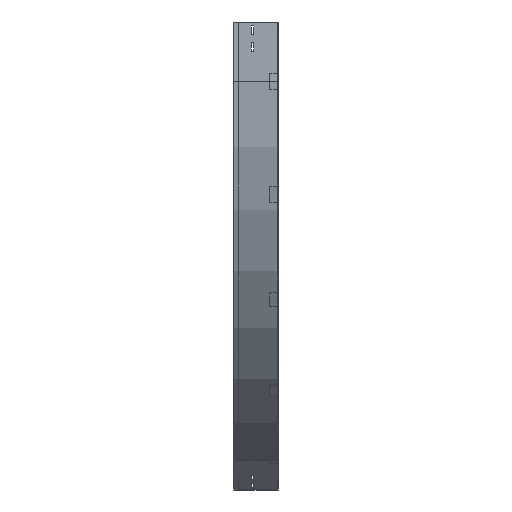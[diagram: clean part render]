
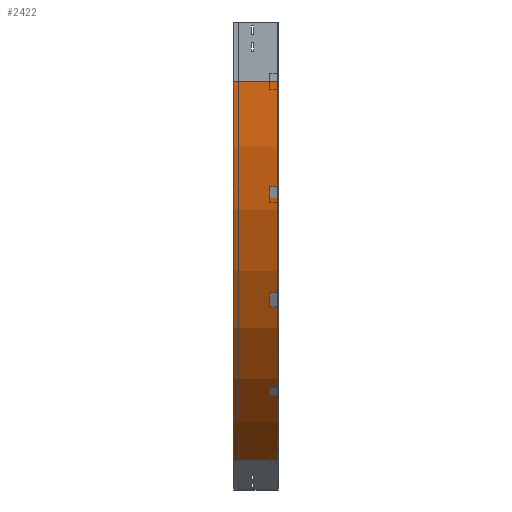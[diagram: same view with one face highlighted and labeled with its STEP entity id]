
A CAD part, left-side view. The second image highlights one B-rep face of the part: STEP entity #2422.
In plain terms, the highlighted cylindrical face has radius 1100 mm (diameter 2200 mm), a partial arc.
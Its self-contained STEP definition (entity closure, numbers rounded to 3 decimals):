
#41 = FACE_OUTER_BOUND ( 'NONE', #724, .T. ) ;
#107 = EDGE_CURVE ( 'NONE', #617, #1916, #3446, .T. ) ;
#617 = VERTEX_POINT ( 'NONE', #2658 ) ;
#662 = LINE ( 'NONE', #2708, #2881 ) ;
#724 = EDGE_LOOP ( 'NONE', ( #3082, #1937, #2550, #2233 ) ) ;
#752 = EDGE_CURVE ( 'NONE', #1916, #2128, #662, .T. ) ;
#831 = DIRECTION ( 'NONE',  ( 0., -1., 0. ) ) ;
#874 = CARTESIAN_POINT ( 'NONE',  ( 1100., 0., -150. ) ) ;
#1181 = AXIS2_PLACEMENT_3D ( 'NONE', #1541, #2205, #3415 ) ;
#1182 = DIRECTION ( 'NONE',  ( -1., 0., 0. ) ) ;
#1541 = CARTESIAN_POINT ( 'NONE',  ( 1100., 112.5, -150. ) ) ;
#1888 = LINE ( 'NONE', #3389, #2068 ) ;
#1916 = VERTEX_POINT ( 'NONE', #3169 ) ;
#1937 = ORIENTED_EDGE ( 'NONE', *, *, #2909, .F. ) ;
#1995 = CYLINDRICAL_SURFACE ( 'NONE', #2119, 1100. ) ;
#2068 = VECTOR ( 'NONE', #2139, 1000. ) ;
#2119 = AXIS2_PLACEMENT_3D ( 'NONE', #3499, #831, #2988 ) ;
#2128 = VERTEX_POINT ( 'NONE', #2947 ) ;
#2139 = DIRECTION ( 'NONE',  ( 0., -1., 0. ) ) ;
#2205 = DIRECTION ( 'NONE',  ( 0., -1., 0. ) ) ;
#2233 = ORIENTED_EDGE ( 'NONE', *, *, #752, .T. ) ;
#2392 = DIRECTION ( 'NONE',  ( 0., -1., 0. ) ) ;
#2394 = DIRECTION ( 'NONE',  ( 0., -1., 0. ) ) ;
#2422 = ADVANCED_FACE ( 'NONE', ( #41 ), #1995, .T. ) ;
#2550 = ORIENTED_EDGE ( 'NONE', *, *, #107, .T. ) ;
#2658 = CARTESIAN_POINT ( 'NONE',  ( 0., 112.5, -150. ) ) ;
#2708 = CARTESIAN_POINT ( 'NONE',  ( 550., 0., -1102.628 ) ) ;
#2750 = CARTESIAN_POINT ( 'NONE',  ( 0., 0., -150. ) ) ;
#2830 = CIRCLE ( 'NONE', #3639, 1100. ) ;
#2881 = VECTOR ( 'NONE', #2394, 1000. ) ;
#2909 = EDGE_CURVE ( 'NONE', #617, #2942, #1888, .T. ) ;
#2942 = VERTEX_POINT ( 'NONE', #2750 ) ;
#2947 = CARTESIAN_POINT ( 'NONE',  ( 550., 0., -1102.628 ) ) ;
#2988 = DIRECTION ( 'NONE',  ( 0., 0., -1. ) ) ;
#3082 = ORIENTED_EDGE ( 'NONE', *, *, #3269, .F. ) ;
#3169 = CARTESIAN_POINT ( 'NONE',  ( 550., 112.5, -1102.628 ) ) ;
#3269 = EDGE_CURVE ( 'NONE', #2942, #2128, #2830, .T. ) ;
#3389 = CARTESIAN_POINT ( 'NONE',  ( 0., 0., -150. ) ) ;
#3415 = DIRECTION ( 'NONE',  ( -1., 0., 0. ) ) ;
#3446 = CIRCLE ( 'NONE', #1181, 1100. ) ;
#3499 = CARTESIAN_POINT ( 'NONE',  ( 1100., 0., -150. ) ) ;
#3639 = AXIS2_PLACEMENT_3D ( 'NONE', #874, #2392, #1182 ) ;
